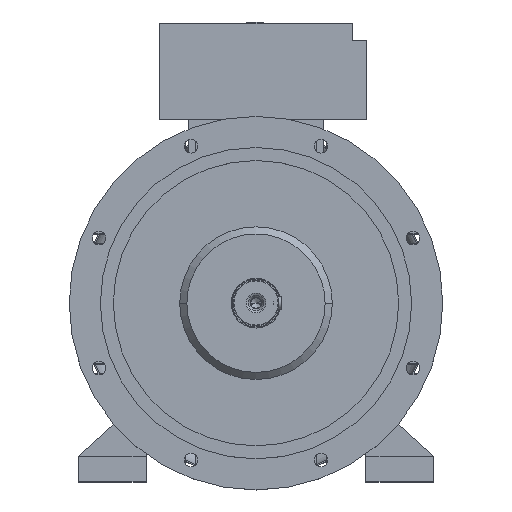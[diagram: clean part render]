
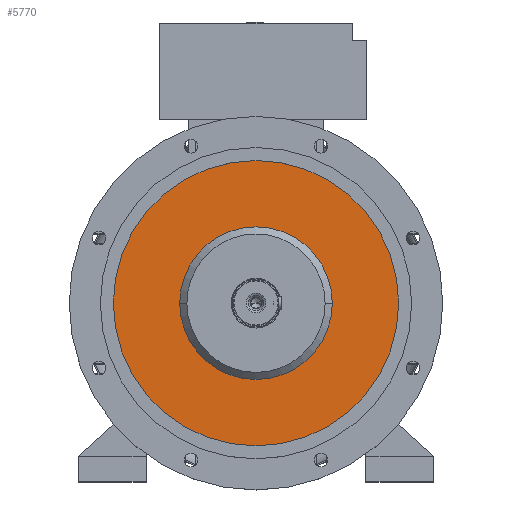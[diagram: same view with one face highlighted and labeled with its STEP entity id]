
A CAD part, top view. The second image highlights one B-rep face of the part: STEP entity #5770.
In plain terms, the highlighted planar face has unit normal (0, 0, 1).
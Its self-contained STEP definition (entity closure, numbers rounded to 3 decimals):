
#2485 = CARTESIAN_POINT ( 'NONE',  ( 134.8, 0., 455.4 ) ) ;
#3303 = VERTEX_POINT ( 'NONE', #19015 ) ;
#4413 = EDGE_LOOP ( 'NONE', ( #17817, #18196 ) ) ;
#4598 = AXIS2_PLACEMENT_3D ( 'NONE', #8542, #21321, #18982 ) ;
#5035 = DIRECTION ( 'NONE',  ( 0., 0., -1. ) ) ;
#5212 = VERTEX_POINT ( 'NONE', #25448 ) ;
#5770 = ADVANCED_FACE ( 'NONE', ( #8359, #23615 ), #23115, .T. ) ;
#6628 = CIRCLE ( 'NONE', #4598, 134.8 ) ;
#6673 = ORIENTED_EDGE ( 'NONE', *, *, #8462, .T. ) ;
#8046 = DIRECTION ( 'NONE',  ( 0., 0., 1. ) ) ;
#8140 = EDGE_CURVE ( 'NONE', #10281, #3303, #26781, .T. ) ;
#8359 = FACE_BOUND ( 'NONE', #4413, .T. ) ;
#8462 = EDGE_CURVE ( 'NONE', #3303, #10281, #26462, .T. ) ;
#8542 = CARTESIAN_POINT ( 'NONE',  ( 0., 0., 455.4 ) ) ;
#9211 = DIRECTION ( 'NONE',  ( 0., 0., 1. ) ) ;
#9847 = AXIS2_PLACEMENT_3D ( 'NONE', #25664, #9211, #25857 ) ;
#10281 = VERTEX_POINT ( 'NONE', #24488 ) ;
#10675 = CIRCLE ( 'NONE', #22819, 134.8 ) ;
#11951 = DIRECTION ( 'NONE',  ( -1., 0., 0. ) ) ;
#14365 = EDGE_LOOP ( 'NONE', ( #17542, #6673 ) ) ;
#14709 = CARTESIAN_POINT ( 'NONE',  ( 0., 252.083, 455.4 ) ) ;
#15123 = EDGE_CURVE ( 'NONE', #25605, #5212, #6628, .T. ) ;
#15801 = AXIS2_PLACEMENT_3D ( 'NONE', #26435, #8046, #11951 ) ;
#17011 = EDGE_CURVE ( 'NONE', #5212, #25605, #10675, .T. ) ;
#17542 = ORIENTED_EDGE ( 'NONE', *, *, #8140, .T. ) ;
#17817 = ORIENTED_EDGE ( 'NONE', *, *, #17011, .T. ) ;
#18196 = ORIENTED_EDGE ( 'NONE', *, *, #15123, .T. ) ;
#18860 = DIRECTION ( 'NONE',  ( 0., 0., 1. ) ) ;
#18982 = DIRECTION ( 'NONE',  ( -1., 0., 0. ) ) ;
#19015 = CARTESIAN_POINT ( 'NONE',  ( 252.083, 0., 455.4 ) ) ;
#21321 = DIRECTION ( 'NONE',  ( 0., 0., -1. ) ) ;
#22819 = AXIS2_PLACEMENT_3D ( 'NONE', #25682, #5035, #23757 ) ;
#23115 = PLANE ( 'NONE',  #23517 ) ;
#23517 = AXIS2_PLACEMENT_3D ( 'NONE', #14709, #18860, #25413 ) ;
#23615 = FACE_OUTER_BOUND ( 'NONE', #14365, .T. ) ;
#23757 = DIRECTION ( 'NONE',  ( -1., 0., 0. ) ) ;
#24488 = CARTESIAN_POINT ( 'NONE',  ( -252.083, 0., 455.4 ) ) ;
#25413 = DIRECTION ( 'NONE',  ( 1., 0., 0. ) ) ;
#25448 = CARTESIAN_POINT ( 'NONE',  ( -134.8, 0., 455.4 ) ) ;
#25605 = VERTEX_POINT ( 'NONE', #2485 ) ;
#25664 = CARTESIAN_POINT ( 'NONE',  ( 0., 0., 455.4 ) ) ;
#25682 = CARTESIAN_POINT ( 'NONE',  ( 0., 0., 455.4 ) ) ;
#25857 = DIRECTION ( 'NONE',  ( -1., 0., 0. ) ) ;
#26435 = CARTESIAN_POINT ( 'NONE',  ( 0., 0., 455.4 ) ) ;
#26462 = CIRCLE ( 'NONE', #9847, 252.083 ) ;
#26781 = CIRCLE ( 'NONE', #15801, 252.083 ) ;
